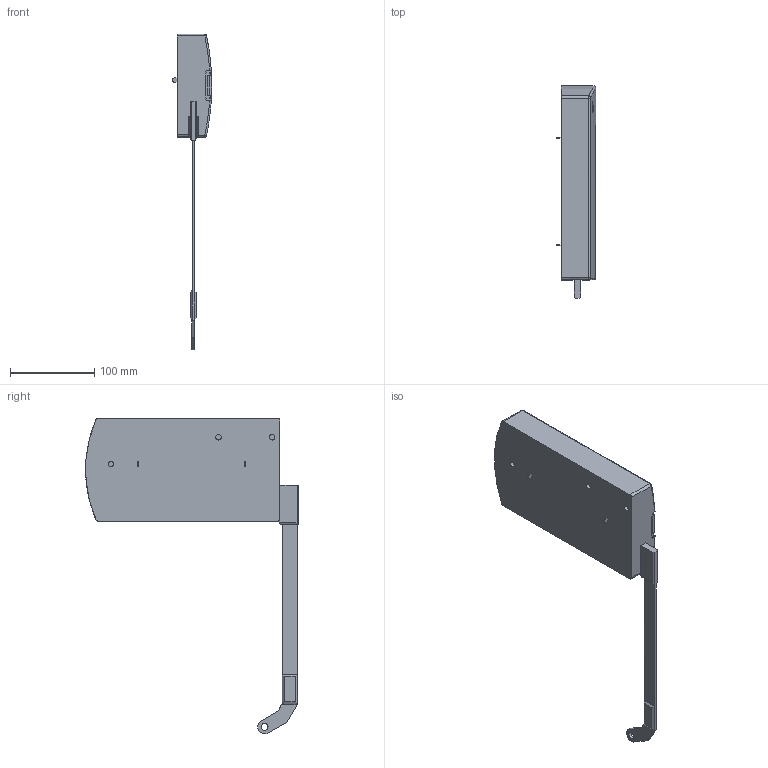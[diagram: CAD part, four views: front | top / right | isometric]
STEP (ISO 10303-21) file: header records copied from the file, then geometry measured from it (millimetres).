
FILE_DESCRIPTION (( 'STEP AP203' ), '1' );
FILE_NAME ('Kinvaro_F-20_Typ3_links_D2876012125~a.step', '2012-05-04T06:22:42', ( 'admin' ), ( 'Hewlett-Packard Company' ), 'SwSTEP 2.0', 'SolidWorks 2011', '' );
FILE_SCHEMA (( 'CONFIG_CONTROL_DESIGN' ));
Length unit declared in the file: millimetre
Products named in the file (1): Kinvaro_F-20_Typ3_links_D2876012125~a
Bounding box: 46.99 x 252.93 x 375.5 mm (x, y, z)
Volume: 1090434.1 mm3; surface area: 96604.8 mm2
Topology: 1 solids, 1 shells, 410 faces, 1130 edges, 741 vertices
Faces by surface type: cylinder 180, plane 172, bspline 46, torus 8, sphere 4
Entity records: 14396 total; most frequent: CARTESIAN_POINT 3991, ORIENTED_EDGE 2254, DIRECTION 2058, EDGE_CURVE 1127, VERTEX_POINT 741, AXIS2_PLACEMENT_3D 724, LINE 610, VECTOR 610
